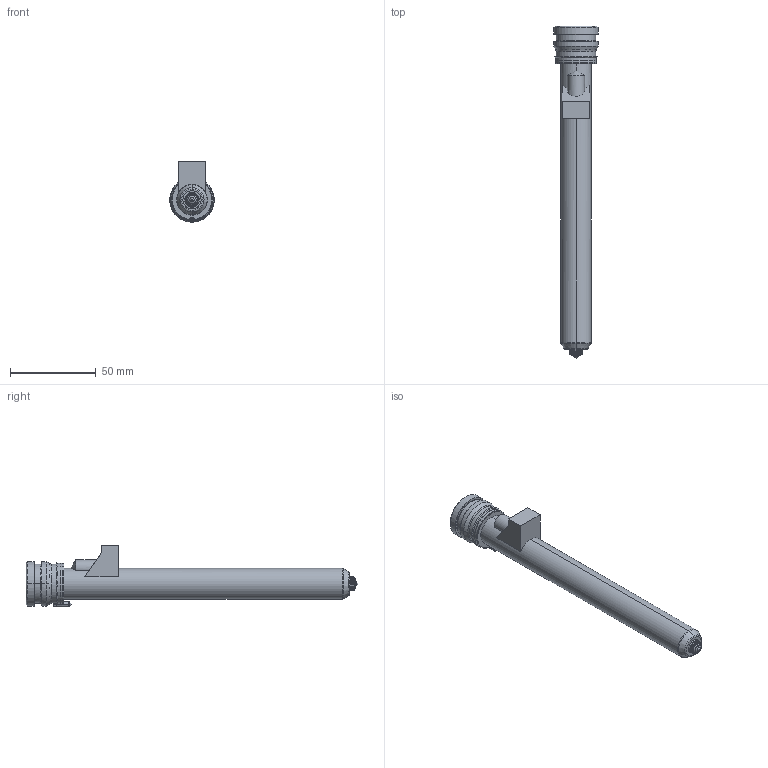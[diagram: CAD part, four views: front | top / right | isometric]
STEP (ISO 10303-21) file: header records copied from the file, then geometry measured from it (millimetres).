
FILE_DESCRIPTION((''),'2;1');
FILE_NAME('TH18176-M-1-PK-JG','2023-12-14T',('umhib'),('Thermoplay S.p.A.'),'PRO/ENGINEER BY PARAMETRIC TECHNOLOGY CORPORATION, 2017170','PRO/ENGINEER BY PARAMETRIC TECHNOLOGY CORPORATION, 2017170','');
FILE_SCHEMA(('CONFIG_CONTROL_DESIGN'));
Length unit declared in the file: millimetre
Products named in the file (1): TH18176-M-1-PK-JG
Bounding box: 26 x 194 x 36.1 mm (x, y, z)
Volume: 38695.4 mm3; surface area: 29077.2 mm2
Topology: 1 solids, 2 shells, 391 faces, 999 edges, 613 vertices
Faces by surface type: cylinder 149, plane 87, cone 62, torus 58, bspline 22, sphere 11, extrusion 2
Entity records: 16788 total; most frequent: CARTESIAN_POINT 5160, DIRECTION 2000, ORIENTED_EDGE 1972, EDGE_CURVE 988, AXIS2_PLACEMENT_3D 806, VERTEX_POINT 613, CIRCLE 438, EDGE_LOOP 414
